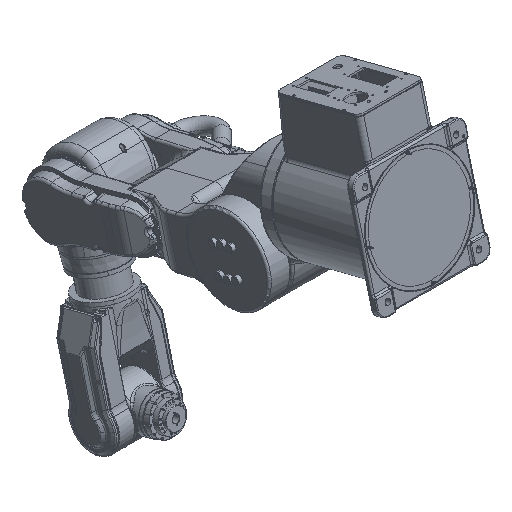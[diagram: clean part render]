
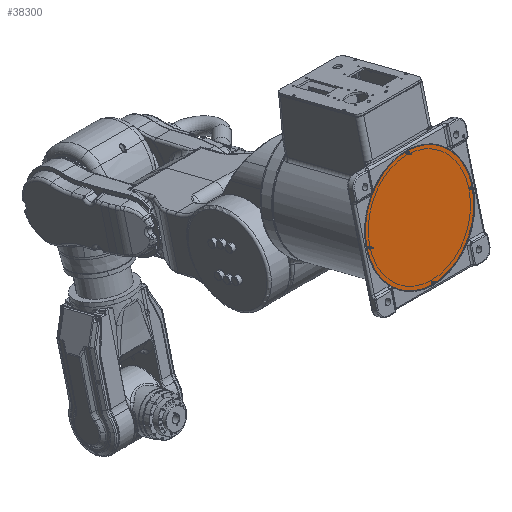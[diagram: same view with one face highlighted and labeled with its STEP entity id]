
A CAD part, isometric view. The second image highlights one B-rep face of the part: STEP entity #38300.
In plain terms, the highlighted planar face has unit normal (0, -0.969, 0.249).
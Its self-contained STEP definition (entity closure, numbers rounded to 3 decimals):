
#38117=CARTESIAN_POINT('',(-123.799,62.722,
181.718));
#38118=DIRECTION('',(0.,0.969,-0.249));
#38119=DIRECTION('',(1.,0.,0.));
#38120=AXIS2_PLACEMENT_3D('',#38117,#38118,#38119);
#38122=CARTESIAN_POINT('',(-123.799,62.722,
181.718));
#38123=DIRECTION('',(0.,0.969,-0.249));
#38124=DIRECTION('',(-1.,0.,0.));
#38125=AXIS2_PLACEMENT_3D('',#38122,#38123,#38124);
#38127=CARTESIAN_POINT('',(-123.8,92.196,
296.494));
#38128=DIRECTION('',(0.,-0.969,0.249));
#38129=DIRECTION('',(-1.,0.,0.));
#38130=AXIS2_PLACEMENT_3D('',#38127,#38128,#38129);
#38132=CARTESIAN_POINT('',(-123.8,92.196,
296.494));
#38133=DIRECTION('',(0.,-0.969,0.249));
#38134=DIRECTION('',(1.,0.,0.));
#38135=AXIS2_PLACEMENT_3D('',#38132,#38133,#38134);
#38137=CARTESIAN_POINT('',(-5.299,62.68,
181.729));
#38138=DIRECTION('',(0.,-0.969,0.249));
#38139=DIRECTION('',(-1.,0.,0.));
#38140=AXIS2_PLACEMENT_3D('',#38137,#38138,#38139);
#38142=CARTESIAN_POINT('',(-5.299,62.68,
181.729));
#38143=DIRECTION('',(0.,-0.969,0.249));
#38144=DIRECTION('',(1.,0.,0.));
#38145=AXIS2_PLACEMENT_3D('',#38142,#38143,#38144);
#38147=CARTESIAN_POINT('',(-123.798,33.249,
66.941));
#38148=DIRECTION('',(0.,-0.969,0.249));
#38149=DIRECTION('',(-1.,0.,0.));
#38150=AXIS2_PLACEMENT_3D('',#38147,#38148,#38149);
#38152=CARTESIAN_POINT('',(-123.798,33.249,
66.941));
#38153=DIRECTION('',(0.,-0.969,0.249));
#38154=DIRECTION('',(1.,0.,0.));
#38155=AXIS2_PLACEMENT_3D('',#38152,#38153,#38154);
#38157=CARTESIAN_POINT('',(-242.299,62.764,
181.706));
#38158=DIRECTION('',(0.,-0.969,0.249));
#38159=DIRECTION('',(-1.,0.,0.));
#38160=AXIS2_PLACEMENT_3D('',#38157,#38158,#38159);
#38162=CARTESIAN_POINT('',(-242.299,62.764,
181.706));
#38163=DIRECTION('',(0.,-0.969,0.249));
#38164=DIRECTION('',(1.,0.,0.));
#38165=AXIS2_PLACEMENT_3D('',#38162,#38163,#38164);
#38225=CARTESIAN_POINT('',(-1.799,62.679,
181.73));
#38226=CARTESIAN_POINT('',(-245.799,62.766,
181.705));
#38227=VERTEX_POINT('',#38225);
#38228=VERTEX_POINT('',#38226);
#38229=CARTESIAN_POINT('',(-125.55,92.197,
296.493));
#38230=CARTESIAN_POINT('',(-122.05,92.195,
296.494));
#38231=VERTEX_POINT('',#38229);
#38232=VERTEX_POINT('',#38230);
#38233=CARTESIAN_POINT('',(-7.049,62.681,
181.729));
#38234=CARTESIAN_POINT('',(-3.549,62.679,
181.73));
#38235=VERTEX_POINT('',#38233);
#38236=VERTEX_POINT('',#38234);
#38237=CARTESIAN_POINT('',(-125.548,33.249,
66.941));
#38238=CARTESIAN_POINT('',(-122.048,33.248,
66.942));
#38239=VERTEX_POINT('',#38237);
#38240=VERTEX_POINT('',#38238);
#38241=CARTESIAN_POINT('',(-244.049,62.765,
181.705));
#38242=CARTESIAN_POINT('',(-240.549,62.764,
181.706));
#38243=VERTEX_POINT('',#38241);
#38244=VERTEX_POINT('',#38242);
#38265=CARTESIAN_POINT('',(-123.799,62.722,
181.718));
#38266=DIRECTION('',(0.,-0.969,0.249));
#38267=DIRECTION('',(0.,-0.249,-0.969));
#38268=AXIS2_PLACEMENT_3D('',#38265,#38266,#38267);
#38269=PLANE('',#38268);
#38271=ORIENTED_EDGE('',*,*,#38270,.T.);
#38273=ORIENTED_EDGE('',*,*,#38272,.T.);
#38274=EDGE_LOOP('',(#38271,#38273));
#38275=FACE_OUTER_BOUND('',#38274,.F.);
#38277=ORIENTED_EDGE('',*,*,#38276,.T.);
#38279=ORIENTED_EDGE('',*,*,#38278,.T.);
#38280=EDGE_LOOP('',(#38277,#38279));
#38281=FACE_BOUND('',#38280,.F.);
#38283=ORIENTED_EDGE('',*,*,#38282,.T.);
#38285=ORIENTED_EDGE('',*,*,#38284,.T.);
#38286=EDGE_LOOP('',(#38283,#38285));
#38287=FACE_BOUND('',#38286,.F.);
#38289=ORIENTED_EDGE('',*,*,#38288,.T.);
#38291=ORIENTED_EDGE('',*,*,#38290,.T.);
#38292=EDGE_LOOP('',(#38289,#38291));
#38293=FACE_BOUND('',#38292,.F.);
#38295=ORIENTED_EDGE('',*,*,#38294,.T.);
#38297=ORIENTED_EDGE('',*,*,#38296,.T.);
#38298=EDGE_LOOP('',(#38295,#38297));
#38299=FACE_BOUND('',#38298,.F.);
#38121=CIRCLE('',#38120,122.);
#38126=CIRCLE('',#38125,122.);
#38131=CIRCLE('',#38130,1.75);
#38136=CIRCLE('',#38135,1.75);
#38141=CIRCLE('',#38140,1.75);
#38146=CIRCLE('',#38145,1.75);
#38151=CIRCLE('',#38150,1.75);
#38156=CIRCLE('',#38155,1.75);
#38161=CIRCLE('',#38160,1.75);
#38166=CIRCLE('',#38165,1.75);
#38270=EDGE_CURVE('',#38227,#38228,#38121,.T.);
#38272=EDGE_CURVE('',#38228,#38227,#38126,.T.);
#38276=EDGE_CURVE('',#38231,#38232,#38131,.T.);
#38278=EDGE_CURVE('',#38232,#38231,#38136,.T.);
#38282=EDGE_CURVE('',#38235,#38236,#38141,.T.);
#38284=EDGE_CURVE('',#38236,#38235,#38146,.T.);
#38288=EDGE_CURVE('',#38239,#38240,#38151,.T.);
#38290=EDGE_CURVE('',#38240,#38239,#38156,.T.);
#38294=EDGE_CURVE('',#38243,#38244,#38161,.T.);
#38296=EDGE_CURVE('',#38244,#38243,#38166,.T.);
#38300=ADVANCED_FACE('',(#38275,#38281,#38287,#38293,#38299),#38269,.T.);
